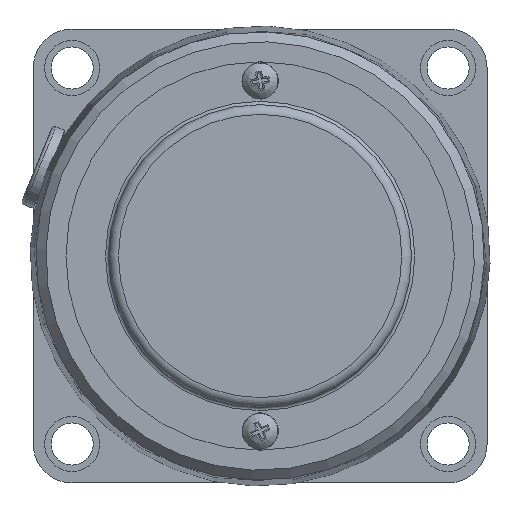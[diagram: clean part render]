
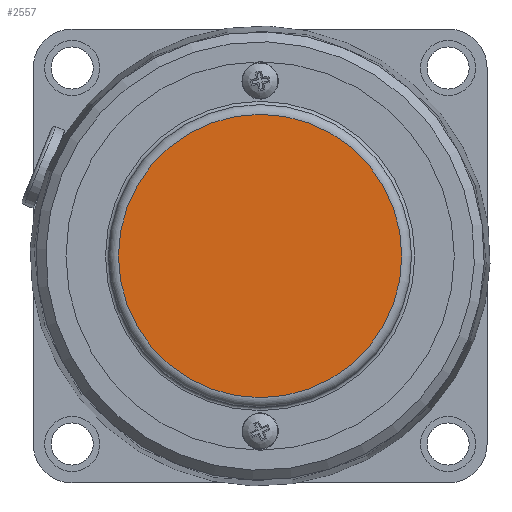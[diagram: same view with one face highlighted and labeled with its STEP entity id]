
A CAD part, left-side view. The second image highlights one B-rep face of the part: STEP entity #2557.
In plain terms, the highlighted planar face has unit normal (-1, 0, 0).
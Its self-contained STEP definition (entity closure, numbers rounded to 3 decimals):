
#214=CIRCLE('',#2865,21.85);
#437=FACE_OUTER_BOUND('',#624,.T.);
#624=EDGE_LOOP('',(#2147));
#1199=VERTEX_POINT('',#4335);
#1527=EDGE_CURVE('',#1199,#1199,#214,.T.);
#2147=ORIENTED_EDGE('',*,*,#1527,.F.);
#2410=PLANE('',#2866);
#2557=ADVANCED_FACE('',(#437),#2410,.F.);
#2865=AXIS2_PLACEMENT_3D('',#4337,#3536,#3537);
#2866=AXIS2_PLACEMENT_3D('',#4338,#3538,#3539);
#3536=DIRECTION('center_axis',(1.,0.,0.));
#3537=DIRECTION('ref_axis',(0.,0.,-1.));
#3538=DIRECTION('center_axis',(1.,0.,0.));
#3539=DIRECTION('ref_axis',(0.,0.,-1.));
#4335=CARTESIAN_POINT('',(-48.2,0.,21.85));
#4337=CARTESIAN_POINT('Origin',(-48.2,0.,0.));
#4338=CARTESIAN_POINT('Origin',(-48.2,0.,0.));
